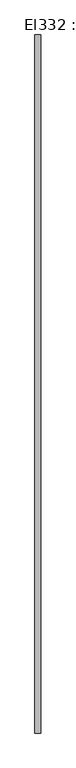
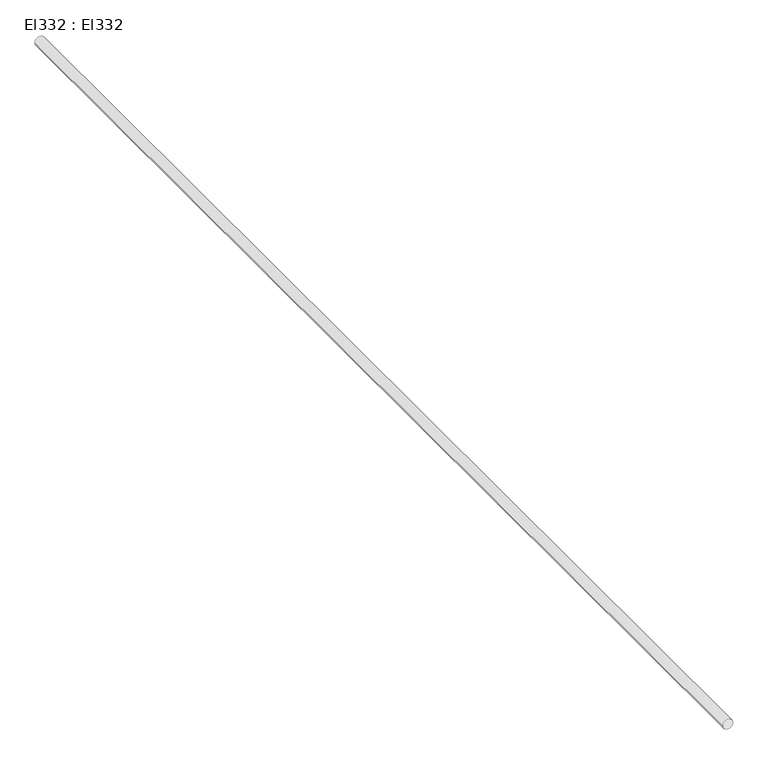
"""IFC4 building model written with IfcOpenShell, lengths in millimetres: cable carrier segment geometry, El332 : El332."""

from ifc_helpers import new_model, si_unit, point, frame, frame_2d, origin, place, context, project, spatial, circle_curve, trimmed, segment, composite_curve, outline, extrude, source, transform, mapped, element, save


def el332_el332_b2451b52(model_context):
    return source(origin(), model_context, "Body", "SweptSolid", [
        extrude(outline(composite_curve([segment(trimmed(circle_curve(frame_2d((2950.0, 8200.0)), 9.5), [point((2950.0, 8190.5))], [point((2950.0, 8209.5))], False, "CARTESIAN"), True, "CONTINUOUS"), segment(trimmed(circle_curve(frame_2d((2950.0, 8200.0)), 9.5), [point((2950.0, 8209.5))], [point((2950.0, 8190.5))], False, "CARTESIAN"), True, "CONTINUOUS")], self_intersect=False)), frame((0.0, 9883.8, 0.0), z_axis=(0.0, 1.0, 0.0), x_axis=(0.0, 0.0, 1.0)), (0.0, 0.0, 1.0), 2225.0),
    ])


if __name__ == "__main__":
    model = new_model("IFC4")
    model_context = context("Model", 3, world=origin())
    ifc_project = project(units=[si_unit("LENGTHUNIT", "METRE", prefix="MILLI")], contexts=[model_context])
    site = spatial("IfcSite", under=ifc_project)
    building = spatial("IfcBuilding", under=site)
    placement = place(None, origin())
    el332_el332_shape = el332_el332_b2451b52(model_context)
    element("IfcCableCarrierSegment", 1, ObjectType="El332 : El332", at=placement, inside=building, context=model_context, shape_type="MappedRepresentation", body=[
        mapped(el332_el332_shape, transform((0.0, 0.0, 0.0), x_axis=(1.0, 0.0, 0.0), y_axis=(0.0, 1.0, 0.0), z_axis=(0.0, 0.0, 1.0))),
    ])
    save(model, "model.ifc")
